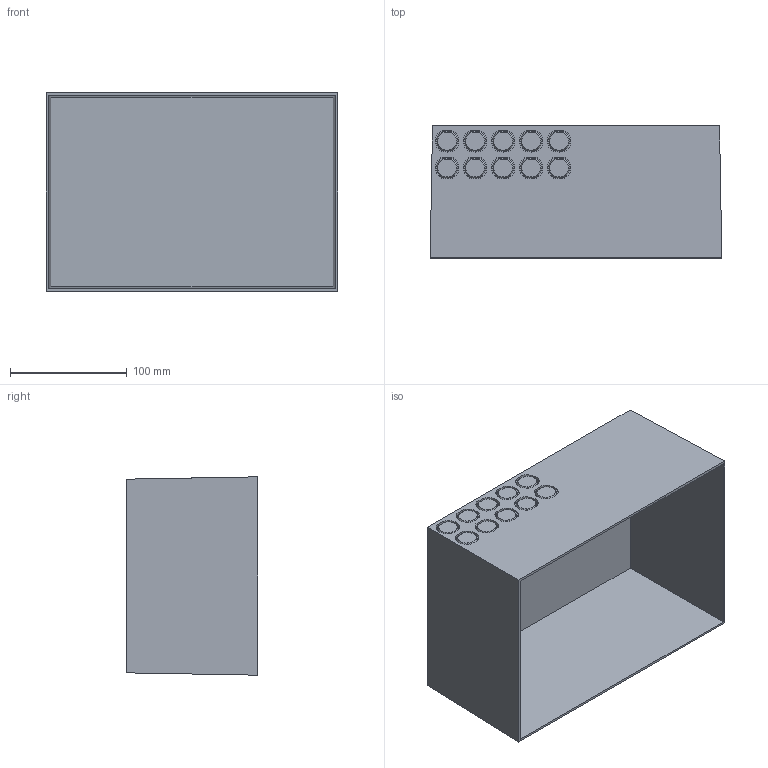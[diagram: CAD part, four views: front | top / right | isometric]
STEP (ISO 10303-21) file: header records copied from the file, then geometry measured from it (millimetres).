
FILE_DESCRIPTION(/* description */ ('Alibre Inc.'),/* implementation_level */ '2;1');
FILE_NAME(/* name */ 'export0',/* time_stamp */ '2009-11-21T15:33:04+01:00',/* author */ (''),/* organization */ (''),/* preprocessor_version */ 'ST-DEVELOPER v10',/* originating_system */ 'Alibre',/* authorisation */ '');
FILE_SCHEMA (('ALIBRE_SCHEMA','CONFIG_CONTROL_DESIGN'));
Length unit declared in the file: centimetre
Products named in the file (1): ID_1
Bounding box: 250 x 113 x 170 mm (x, y, z)
Volume: 263152.4 mm3; surface area: 268077.6 mm2
Topology: 1 solids, 1 shells, 151 faces, 624 edges, 496 vertices
Faces by surface type: plane 87, cone 30, cylinder 30, bspline 4
Entity records: 8656 total; most frequent: CARTESIAN_POINT 2245, ORIENTED_EDGE 1248, PERSISTANTTOPOLOGYATTRIBUTE 723, DIRECTION 688, EDGE_CURVE 624, VERTEX_POINT 496, AXIS2_PLACEMENT_3D 277, VECTOR 218
